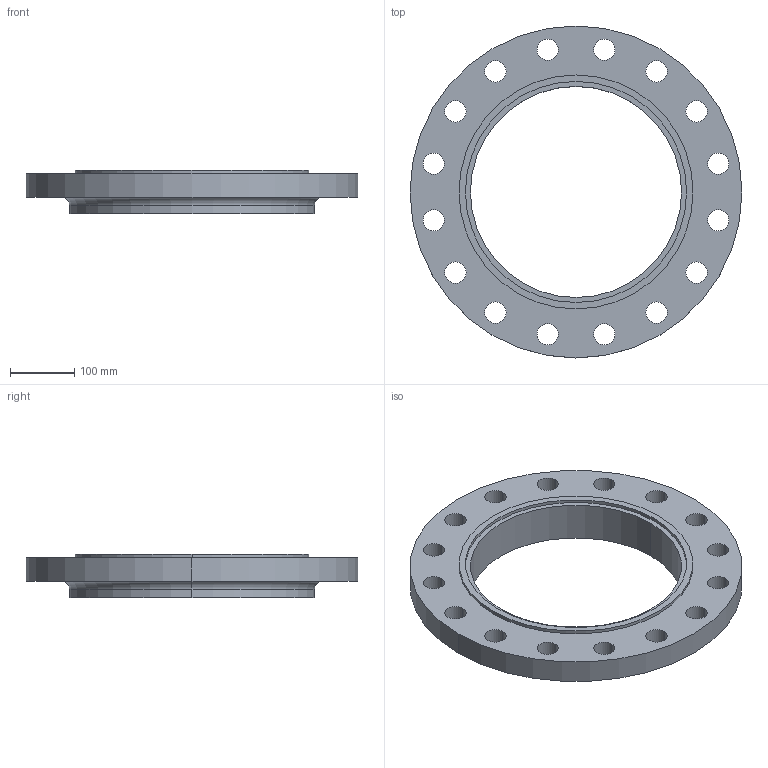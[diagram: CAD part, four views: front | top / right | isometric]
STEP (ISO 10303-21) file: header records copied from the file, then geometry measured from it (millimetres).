
FILE_DESCRIPTION (( 'STEP AP214' ), '1' );
FILE_NAME ('PN40 DN300 Type 12 - Type C Face.STEP', '2019-01-05T20:21:35', ( '' ), ( '' ), 'SwSTEP 2.0', 'SolidWorks 2019', '' );
FILE_SCHEMA (( 'AUTOMOTIVE_DESIGN' ));
Length unit declared in the file: millimetre
Products named in the file (1): PN40 DN300 Type 12 - Type C Face
Bounding box: 515 x 515 x 67 mm (x, y, z)
Volume: 4906369.9 mm3; surface area: 440644.8 mm2
Topology: 1 solids, 1 shells, 49 faces, 130 edges, 86 vertices
Faces by surface type: cylinder 42, plane 5, torus 2
Entity records: 1678 total; most frequent: DIRECTION 318, CARTESIAN_POINT 266, ORIENTED_EDGE 260, AXIS2_PLACEMENT_3D 138, EDGE_CURVE 130, CIRCLE 88, VERTEX_POINT 86, EDGE_LOOP 86
